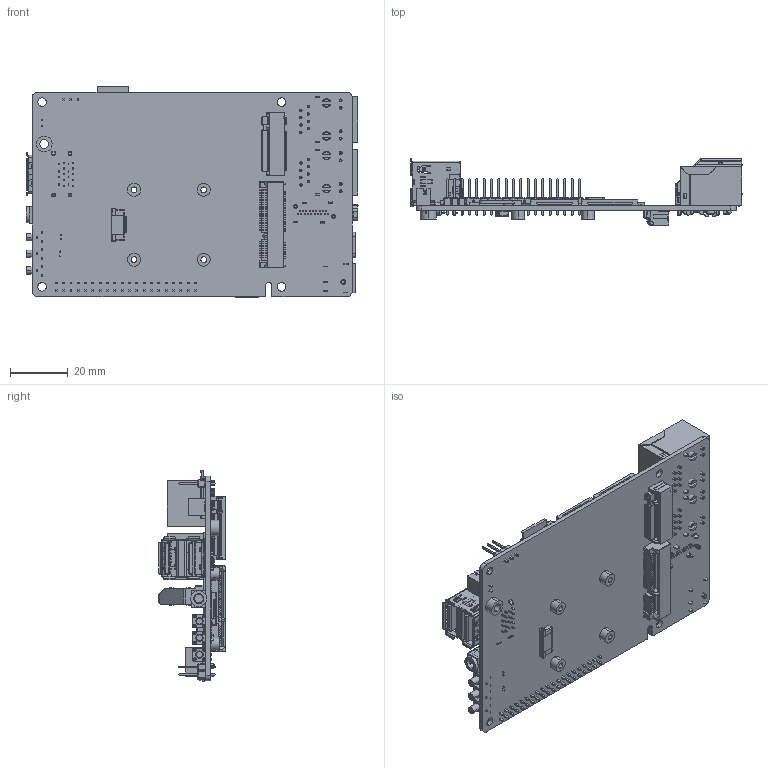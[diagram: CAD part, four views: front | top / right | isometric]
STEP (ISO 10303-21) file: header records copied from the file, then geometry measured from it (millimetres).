
FILE_DESCRIPTION (( 'STEP AP214' ), '1' );
FILE_NAME ('LubanCat 2 PCB 3D恅璃 .STEP', '2022-12-22T06:12:48', ( '' ), ( '' ), 'SwSTEP 2.0', 'SolidWorks 2021', '' );
FILE_SCHEMA (( 'AUTOMOTIVE_DESIGN' ));
Length unit declared in the file: millimetre
Products named in the file (32): RK3568PCB1; PH 2.0X2脣釱 啞伎 蚾饜极; 2.54邧齬齬渀; 边三脚侧插侧按按键6mm; SD縐; SD縐釱赽; User Library-pj-393-8_PJ-393-8_2; DC-044A-20A錨璃 DC諉諳; User Library-USB-TYPE-C20; User Library-pj-393-8_PJ-393-8_1; SIMｿｨmini; User Library-pj-393-8_PJ-393-8_4; M.2 NGFF3.7mm; PH 2.0X2脣釱 啞伎 錨璃; SIMｿｨ1; x05a20l30t; USB3.0+2.0橙晚釱赽 錨璃; LubanCat 2 PCB 3D恅璃 ; 渀褐0.5x0.5x8 錨璃; 錨璃3^User Library-pj-393-8; 1.25X2pin; 3PIN; IRM-v838M3 綻俋泂え; 复件 HR911105A^RK3568推拉样式装配体修改最小间距小于0.8; ZH 2P 脣璃1.5MM; 錨璃4^User Library-pj-393-8; 聆泂LED; x05a20l24t; User Library-pj-393-8; minipcie 5.2mm; FPC12pin0.5mm; 72r3759_2007435-1
Assembly tree (39 placements, depth 3):
  LubanCat 2 PCB 3D恅璃 
    复件 HR911105A^RK3568推拉样式装配体修改最小间距小于0.8  x2
    72r3759_2007435-1
    User Library-USB-TYPE-C20
    聆泂LED  x2
    边三脚侧插侧按按键6mm  x3
    User Library-pj-393-8
      User Library-pj-393-8_PJ-393-8_1
      User Library-pj-393-8_PJ-393-8_2  x4
      User Library-pj-393-8_PJ-393-8_4  x3
      錨璃4^User Library-pj-393-8
    IRM-v838M3 綻俋泂え
    SIMｿｨmini
    SD縐釱赽
    SD縐
    SIMｿｨ1
    2.54邧齬齬渀
    DC-044A-20A錨璃 DC諉諳
    RK3568PCB1
    minipcie 5.2mm
    M.2 NGFF3.7mm
    FPC12pin0.5mm
    3PIN
    x05a20l24t
    x05a20l30t
    ZH 2P 脣璃1.5MM
    1.25X2pin
    PH 2.0X2脣釱 啞伎 蚾饜极
      渀褐0.5x0.5x8 錨璃
      PH 2.0X2脣釱 啞伎 錨璃
    USB3.0+2.0橙晚釱赽 錨璃
  錨璃3^User Library-pj-393-8
Bounding box: 115.12 x 23.18 x 73.49 mm (x, y, z)
Volume: 26403.6 mm3; surface area: 39792.4 mm2
Topology: 55 solids, 141 shells, 9900 faces, 27313 edges, 17727 vertices
Faces by surface type: plane 7379, cylinder 2061, bspline 286, cone 87, torus 52, sphere 35
Entity records: 330714 total; most frequent: CARTESIAN_POINT 68866, ORIENTED_EDGE 50134, DIRECTION 43950, EDGE_CURVE 25174, LINE 20240, VECTOR 20240, VERTEX_POINT 16388, AXIS2_PLACEMENT_3D 11855
